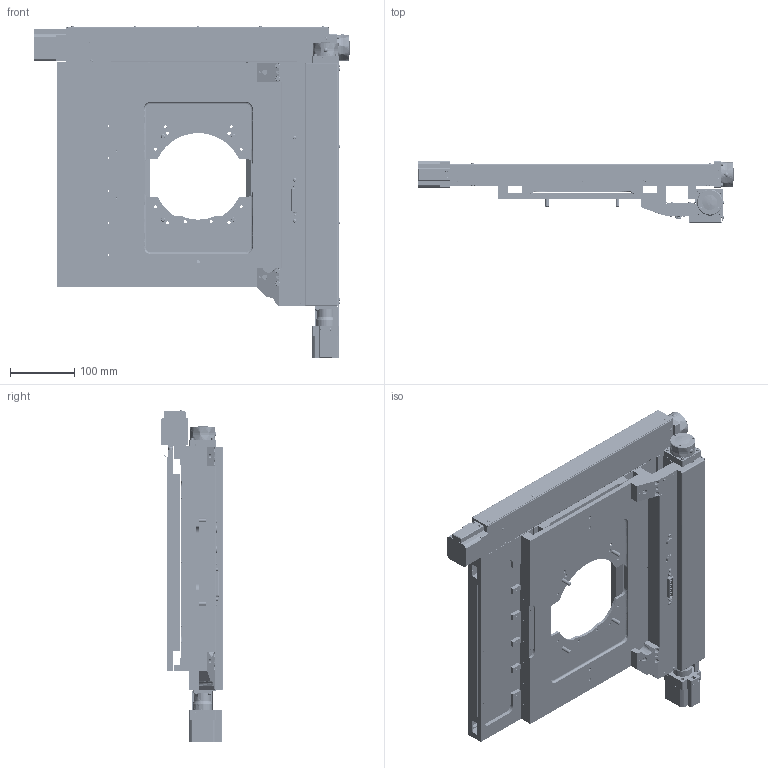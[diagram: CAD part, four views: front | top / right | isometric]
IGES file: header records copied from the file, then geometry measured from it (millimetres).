
Start section: SolidWorks IGES file using analytic representation for surfaces
Global section: file name: C:\1-DATA-FILES-FOR-PROJECTS\2022-PRODUCT-REFERENCE-MODELS\1-STAGE-REFERENCE-MODELS\H112-2ST-STAGE-REFERENCE-MODELS\2-H112-2ST-UK-REFERENCE-MODEL-PARTS\H112_2ST_H112_STAGE-IGES.IGS; native system: SolidWorks 2019; preprocessor: SolidWorks 2019; author: jwilliams; date: 220131.105932; units: inch
Bounding box: 493.44 x 96.08 x 518.24 mm (x, y, z)
Surface area: 1506879.6 mm2 (no closed solid volume)
Topology: 0 solids, 0 shells, 6288 faces, 80846 edges, 79980 vertices
Faces by surface type: revolution 3515, bspline 2773
